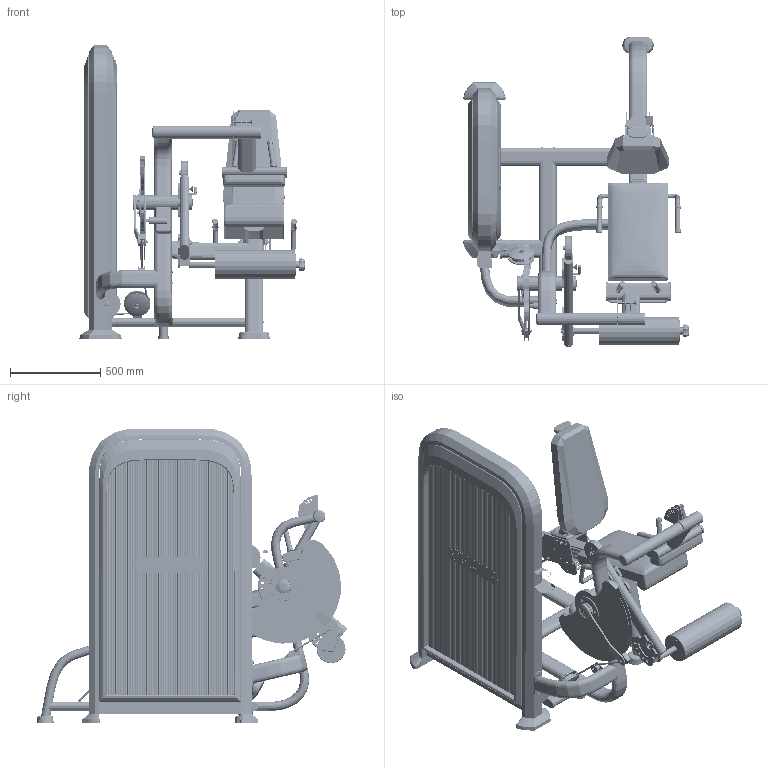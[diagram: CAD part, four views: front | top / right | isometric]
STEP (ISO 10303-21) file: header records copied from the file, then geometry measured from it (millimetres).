
FILE_DESCRIPTION(('FreeCAD Model'),'2;1');
FILE_NAME('Open CASCADE Shape Model','2025-12-15T19:30:07',('Author'),( ''),'Open CASCADE STEP processor 7.8','FreeCAD','Unknown');
FILE_SCHEMA(('AUTOMOTIVE_DESIGN { 1 0 10303 214 1 1 1 1 }'));
Products named in the file (1): Step001 (Solid)
Bounding box: 1248.68 x 1719.35 x 1631.58 mm (x, y, z)
Volume: 137174659.4 mm3; surface area: 19011098.3 mm2
Topology: 41 solids, 278 shells, 52650 faces, 79472 edges, 27201 vertices
Faces by surface type: plane 52650
Entity records: 1031496 total; most frequent: DIRECTION 184774, CARTESIAN_POINT 159324, ORIENTED_EDGE 157950, EDGE_CURVE 79472, LINE 79472, VECTOR 79472, AXIS2_PLACEMENT_3D 52651, ADVANCED_FACE 52650
